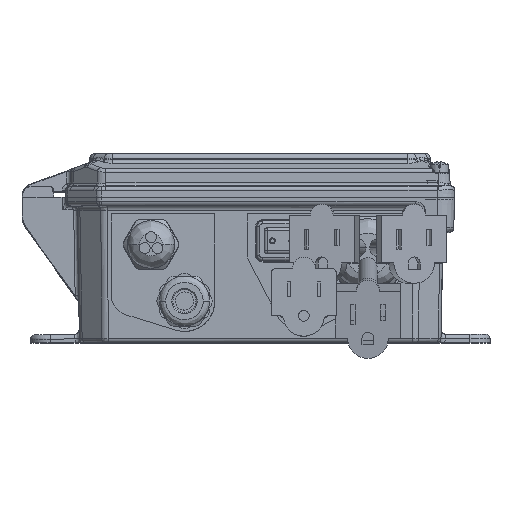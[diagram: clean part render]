
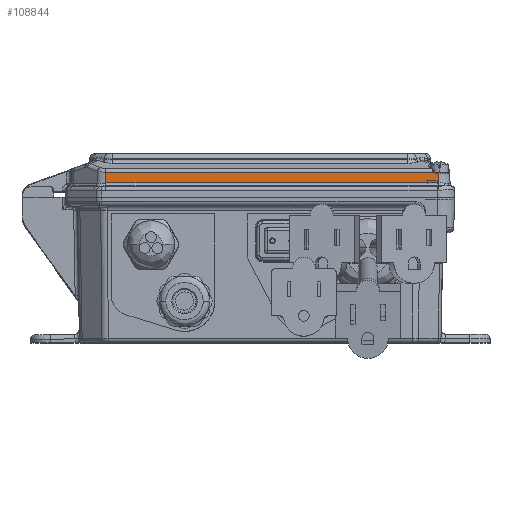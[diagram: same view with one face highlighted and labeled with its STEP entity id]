
A CAD part, top view. The second image highlights one B-rep face of the part: STEP entity #108844.
In plain terms, the highlighted planar face has unit normal (0, 0.026, 1).
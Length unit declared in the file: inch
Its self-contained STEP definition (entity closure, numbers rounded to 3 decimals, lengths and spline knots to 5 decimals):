
#8870 = CARTESIAN_POINT ( 'NONE',  ( 3.063, 0.41052, 3.25725 ) ) ;
#14463 = CARTESIAN_POINT ( 'NONE',  ( 2.99371, 0.41774, 3.25706 ) ) ;
#16826 = EDGE_CURVE ( 'NONE', #200822, #56170, #76797, .T. ) ;
#21984 = VECTOR ( 'NONE', #216048, 39.37008 ) ;
#30944 = CARTESIAN_POINT ( 'NONE',  ( -2.64921, 0.24451, 3.2616 ) ) ;
#31288 = CARTESIAN_POINT ( 'NONE',  ( 3.00981, 0.41169, 3.25722 ) ) ;
#31759 = CARTESIAN_POINT ( 'NONE',  ( 0., 0., 3.268 ) ) ;
#32024 = VERTEX_POINT ( 'NONE', #82322 ) ;
#42912 = EDGE_CURVE ( 'NONE', #188796, #237235, #101164, .T. ) ;
#44284 = CARTESIAN_POINT ( 'NONE',  ( -2.65987, 0.02883, 3.26725 ) ) ;
#45563 = CARTESIAN_POINT ( 'NONE',  ( -2.6555, 0.43193, 3.25669 ) ) ;
#47068 = DIRECTION ( 'NONE',  ( 1., 0., 0. ) ) ;
#47225 = CARTESIAN_POINT ( 'NONE',  ( -2.64921, 0.24451, 3.2616 ) ) ;
#49768 = CARTESIAN_POINT ( 'NONE',  ( 2.99914, 0.41498, 3.25713 ) ) ;
#50229 = PLANE ( 'NONE',  #75678 ) ;
#51321 = CARTESIAN_POINT ( 'NONE',  ( 3.00531, 0.4128, 3.25719 ) ) ;
#52128 = CARTESIAN_POINT ( 'NONE',  ( 2.98169, 0.42902, 3.25677 ) ) ;
#52915 = CARTESIAN_POINT ( 'NONE',  ( 2.99208, 0.41878, 3.25703 ) ) ;
#56121 = EDGE_CURVE ( 'NONE', #98486, #32024, #218276, .T. ) ;
#56170 = VERTEX_POINT ( 'NONE', #216814 ) ;
#61375 = CARTESIAN_POINT ( 'NONE',  ( 3.063, 0.24451, 3.2616 ) ) ;
#66528 = LINE ( 'NONE', #30944, #95498 ) ;
#68652 = DIRECTION ( 'NONE',  ( 1., 0., 0. ) ) ;
#70560 = CARTESIAN_POINT ( 'NONE',  ( 3.01924, 0.41052, 3.25725 ) ) ;
#70773 = LINE ( 'NONE', #179198, #21984 ) ;
#75678 = AXIS2_PLACEMENT_3D ( 'NONE', #31759, #139320, #213651 ) ;
#76213 = LINE ( 'NONE', #44284, #196643 ) ;
#76797 = LINE ( 'NONE', #81039, #222924 ) ;
#79575 = DIRECTION ( 'NONE',  ( 0.011, 1., -0.026 ) ) ;
#81039 = CARTESIAN_POINT ( 'NONE',  ( 0., 0.41052, 3.25725 ) ) ;
#82322 = CARTESIAN_POINT ( 'NONE',  ( 2.98038, 0.43193, 3.25669 ) ) ;
#85870 = EDGE_LOOP ( 'NONE', ( #196208, #176095, #118729, #146201, #234266, #156962, #218963 ) ) ;
#95498 = VECTOR ( 'NONE', #47068, 39.37008 ) ;
#98486 = VERTEX_POINT ( 'NONE', #45563 ) ;
#101164 = B_SPLINE_CURVE_WITH_KNOTS ( 'NONE', 3,
 ( #212207, #175400, #140987, #47225 ),
 .UNSPECIFIED., .F., .F.,
 ( 4, 4 ),
 ( 0., 1. ),
 .UNSPECIFIED. ) ;
#105771 = CARTESIAN_POINT ( 'NONE',  ( 2.98038, 0.43193, 3.25669 ) ) ;
#107179 = EDGE_CURVE ( 'NONE', #188796, #98486, #76213, .T. ) ;
#108844 = ADVANCED_FACE ( 'NONE', ( #150337 ), #50229, .T. ) ;
#118729 = ORIENTED_EDGE ( 'NONE', *, *, #16826, .T. ) ;
#125870 = CARTESIAN_POINT ( 'NONE',  ( 2.98901, 0.42107, 3.25697 ) ) ;
#139320 = DIRECTION ( 'NONE',  ( 0., 0.026, 1. ) ) ;
#140292 = EDGE_CURVE ( 'NONE', #208353, #200822, #70773, .T. ) ;
#140987 = CARTESIAN_POINT ( 'NONE',  ( -2.65199, 0.24449, 3.2616 ) ) ;
#146201 = ORIENTED_EDGE ( 'NONE', *, *, #199201, .T. ) ;
#150337 = FACE_OUTER_BOUND ( 'NONE', #85870, .T. ) ;
#156962 = ORIENTED_EDGE ( 'NONE', *, *, #107179, .F. ) ;
#159292 = CARTESIAN_POINT ( 'NONE',  ( 0., 0.43193, 3.25669 ) ) ;
#162688 = CARTESIAN_POINT ( 'NONE',  ( 3.00318, 0.41346, 3.25717 ) ) ;
#171898 = B_SPLINE_CURVE_WITH_KNOTS ( 'NONE', 3,
 ( #197133, #70560, #177929, #233132, #31288, #51321, #162688, #49768, #178704, #14463, #52915, #125870, #181081, #179485, #52128, #105771 ),
 .UNSPECIFIED., .F., .F.,
 ( 4, 2, 2, 2, 2, 2, 2, 4 ),
 ( 0., 0.125, 0.25, 0.375, 0.5, 0.625, 0.75, 1. ),
 .UNSPECIFIED. ) ;
#172547 = VECTOR ( 'NONE', #68652, 39.37008 ) ;
#175400 = CARTESIAN_POINT ( 'NONE',  ( -2.65476, 0.24448, 3.2616 ) ) ;
#176095 = ORIENTED_EDGE ( 'NONE', *, *, #140292, .T. ) ;
#177929 = CARTESIAN_POINT ( 'NONE',  ( 3.01689, 0.41067, 3.25725 ) ) ;
#178704 = CARTESIAN_POINT ( 'NONE',  ( 2.99717, 0.41588, 3.25711 ) ) ;
#179198 = CARTESIAN_POINT ( 'NONE',  ( 3.063, 0., 3.268 ) ) ;
#179485 = CARTESIAN_POINT ( 'NONE',  ( 2.98363, 0.42627, 3.25684 ) ) ;
#181081 = CARTESIAN_POINT ( 'NONE',  ( 2.98752, 0.42237, 3.25694 ) ) ;
#188796 = VERTEX_POINT ( 'NONE', #223358 ) ;
#194341 = EDGE_CURVE ( 'NONE', #237235, #208353, #66528, .T. ) ;
#196208 = ORIENTED_EDGE ( 'NONE', *, *, #194341, .T. ) ;
#196643 = VECTOR ( 'NONE', #79575, 39.37008 ) ;
#197133 = CARTESIAN_POINT ( 'NONE',  ( 3.02159, 0.41052, 3.25725 ) ) ;
#199201 = EDGE_CURVE ( 'NONE', #56170, #32024, #171898, .T. ) ;
#200822 = VERTEX_POINT ( 'NONE', #8870 ) ;
#208353 = VERTEX_POINT ( 'NONE', #61375 ) ;
#209169 = DIRECTION ( 'NONE',  ( -1., 0., 0. ) ) ;
#212207 = CARTESIAN_POINT ( 'NONE',  ( -2.65753, 0.24446, 3.2616 ) ) ;
#213651 = DIRECTION ( 'NONE',  ( 0., -1., 0.026 ) ) ;
#216048 = DIRECTION ( 'NONE',  ( 0., 1., -0.026 ) ) ;
#216814 = CARTESIAN_POINT ( 'NONE',  ( 3.02159, 0.41052, 3.25725 ) ) ;
#218276 = LINE ( 'NONE', #159292, #172547 ) ;
#218963 = ORIENTED_EDGE ( 'NONE', *, *, #42912, .T. ) ;
#222924 = VECTOR ( 'NONE', #209169, 39.37008 ) ;
#223358 = CARTESIAN_POINT ( 'NONE',  ( -2.65753, 0.24446, 3.2616 ) ) ;
#233132 = CARTESIAN_POINT ( 'NONE',  ( 3.01221, 0.41124, 3.25723 ) ) ;
#233374 = CARTESIAN_POINT ( 'NONE',  ( -2.64921, 0.24451, 3.2616 ) ) ;
#234266 = ORIENTED_EDGE ( 'NONE', *, *, #56121, .F. ) ;
#237235 = VERTEX_POINT ( 'NONE', #233374 ) ;
